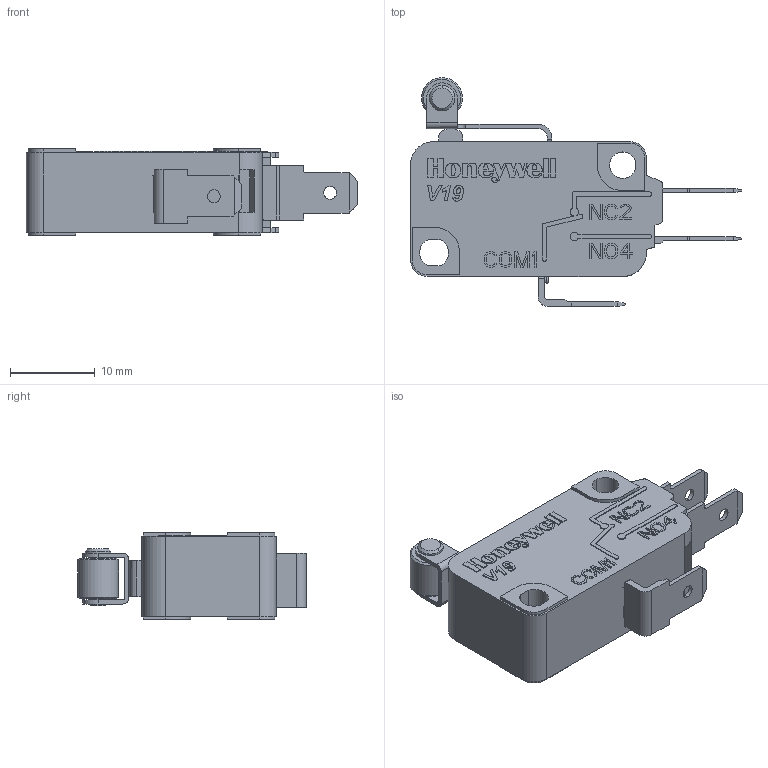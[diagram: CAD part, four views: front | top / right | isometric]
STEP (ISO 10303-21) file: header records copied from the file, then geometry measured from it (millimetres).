
FILE_DESCRIPTION((''),'2;1');
FILE_NAME('V19T16-EZ100A05','2020-06-15T16:59:45',('H252115'),(''),'CREO PARAMETRIC BY PTC INC, 2017380','CREO PARAMETRIC BY PTC INC, 2017380','');
FILE_SCHEMA(('CONFIG_CONTROL_DESIGN'));
Length unit declared in the file: millimetre
Products named in the file (1): V19T16-EZ100A05
Bounding box: 39 x 26.9 x 10.2 mm (x, y, z)
Volume: 4285.5 mm3; surface area: 2790.1 mm2
Topology: 1 solids, 1 shells, 750 faces, 2117 edges, 1410 vertices
Faces by surface type: plane 544, extrusion 101, cylinder 92, cone 6, torus 5, bspline 2
Entity records: 26615 total; most frequent: CARTESIAN_POINT 7306, ORIENTED_EDGE 4234, DIRECTION 3513, EDGE_CURVE 2117, VECTOR 1781, LINE 1680, VERTEX_POINT 1410, AXIS2_PLACEMENT_3D 866
